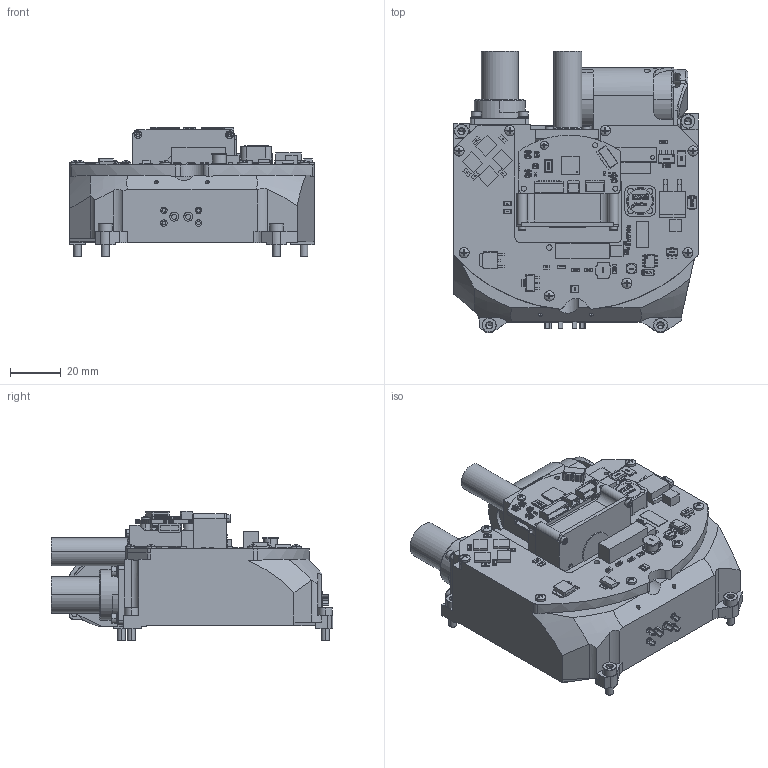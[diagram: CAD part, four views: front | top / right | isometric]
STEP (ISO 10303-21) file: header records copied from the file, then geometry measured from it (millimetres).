
FILE_DESCRIPTION((''),'2;1');
FILE_NAME('LS-606D_00_SW0001','2024-08-12T17:14:09',('Administrator'),(''),'CREO PARAMETRIC BY PTC INC, 2020053','CREO PARAMETRIC BY PTC INC, 2020053','');
FILE_SCHEMA(('CONFIG_CONTROL_DESIGN','SHAPE_APPEARANCE_LAYERS_GROUPS'));
Products named in the file (1): LS-606D_00_SW0001
Bounding box: 96 x 110.8 x 50.9 mm (x, y, z)
Volume: 250093.1 mm3; surface area: 48399.2 mm2
Topology: 31 solids, 33 shells, 8590 faces, 22337 edges, 14184 vertices
Faces by surface type: plane 4507, extrusion 2105, cylinder 1384, sphere 256, cone 194, torus 124, bspline 20
Entity records: 420173 total; most frequent: CARTESIAN_POINT 156683, ORIENTED_EDGE 44182, DIRECTION 35839, EDGE_CURVE 22095, VECTOR 16175, VERTEX_POINT 14184, LINE 14070, PRESENTATION_STYLE_ASSIGNMENT 9911
